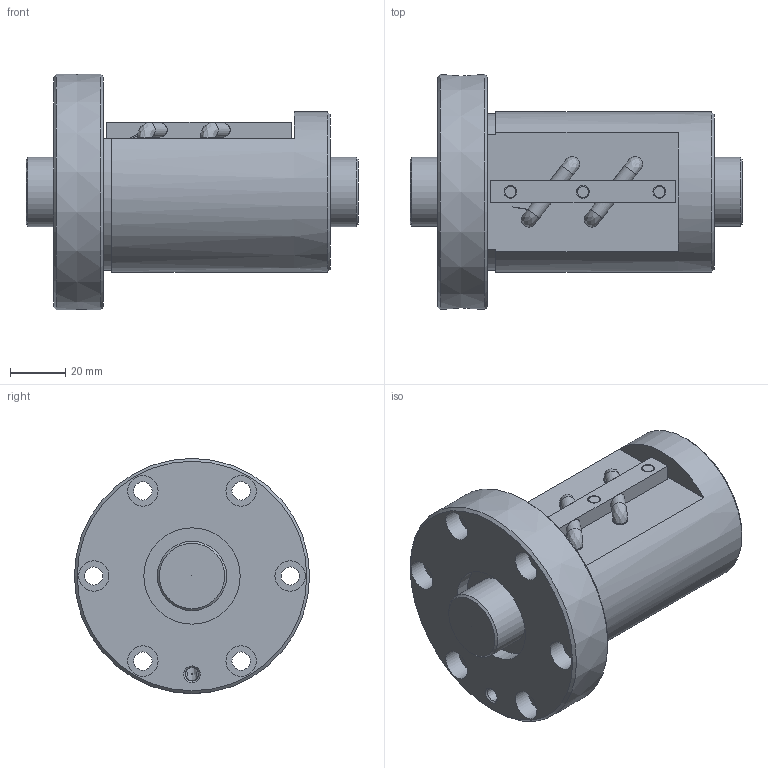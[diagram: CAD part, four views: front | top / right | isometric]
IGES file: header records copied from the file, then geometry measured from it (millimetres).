
Start section: Data from Parasolid IGES Translator 26.0.171, Copyright(c) 2006 Siemens PLM Software. All Rights Reserved.
Global section: file name: BIF2510V-5RRG0+120LC0_000.igs; native system: By Siemens PLM Incorporated; preprocessor: XPlus GENERIC/IGES 26.0.171; author: Noname; organization: Noname; date: 20240715.081759; units: millimetre
Bounding box: 120 x 85 x 85 mm (x, y, z)
Surface area: 52928.9 mm2 (no closed solid volume)
Topology: 0 solids, 0 shells, 99 faces, 463 edges, 426 vertices
Faces by surface type: revolution 58, extrusion 41
